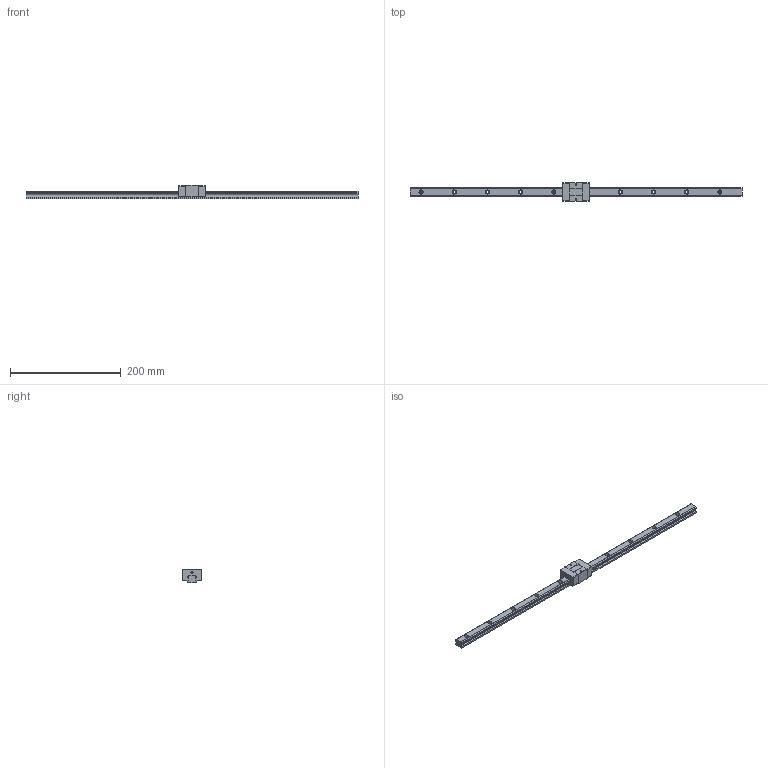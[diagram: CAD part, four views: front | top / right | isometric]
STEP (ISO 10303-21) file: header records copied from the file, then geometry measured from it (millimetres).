
FILE_DESCRIPTION (( 'STEP AP203' ), '1' );
FILE_NAME ('TRS15VS-ZN-§ï.STEP', '2023-08-31T07:48:43', ( '' ), ( '' ), 'SwSTEP 2.0', 'SolidWorks 2022', '' );
FILE_SCHEMA (( 'CONFIG_CONTROL_DESIGN' ));
Length unit declared in the file: millimetre
Products named in the file (1): TRS15VS-ZN-改
Bounding box: 600 x 34 x 24 mm (x, y, z)
Volume: 127521.7 mm3; surface area: 42964.3 mm2
Topology: 1 solids, 1 shells, 171 faces, 460 edges, 304 vertices
Faces by surface type: plane 87, cylinder 84
Entity records: 5515 total; most frequent: DIRECTION 972, CARTESIAN_POINT 936, ORIENTED_EDGE 920, EDGE_CURVE 460, AXIS2_PLACEMENT_3D 340, VERTEX_POINT 304, VECTOR 292, LINE 292
